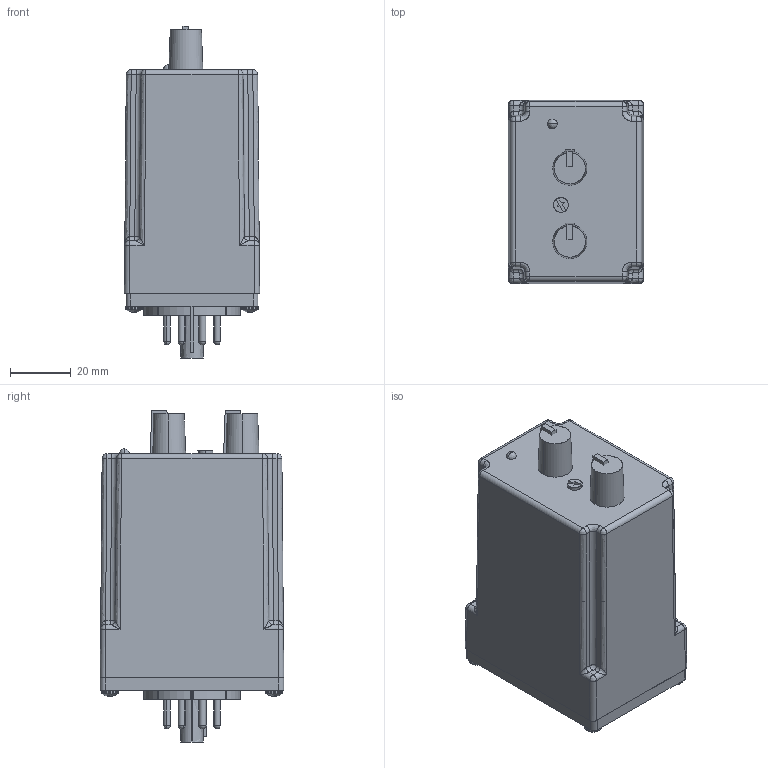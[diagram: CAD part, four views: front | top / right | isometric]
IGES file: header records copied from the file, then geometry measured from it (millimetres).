
Start section: SolidWorks IGES file using analytic representation for surfaces
Global section: file name: D:\Modeling Work\Macromatic\2019\V LO eCAD package\VLo-Package\VLo-3Pot\VLo-3Pot.IGS; native system: SolidWorks 2019; preprocessor: SolidWorks 2019; author: mdahl; date: 190520.220951; units: inch
Bounding box: 44.45 x 60.33 x 109.09 mm (x, y, z)
Surface area: 30542.8 mm2 (no closed solid volume)
Topology: 0 solids, 0 shells, 714 faces, 8754 edges, 8684 vertices
Faces by surface type: bspline 358, revolution 356
